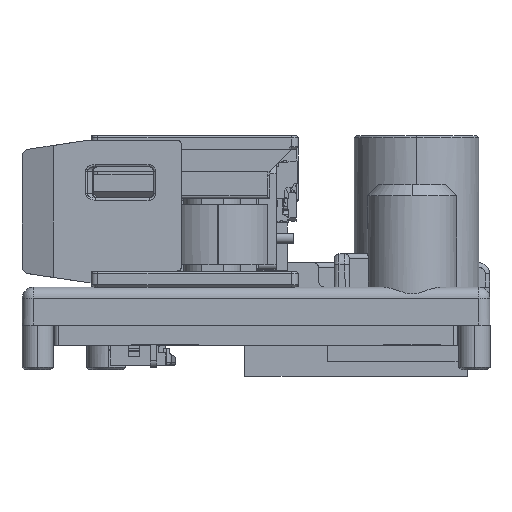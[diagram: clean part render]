
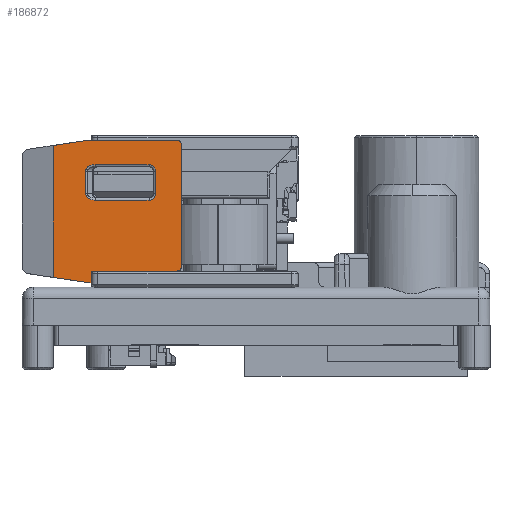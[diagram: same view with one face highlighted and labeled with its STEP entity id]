
A CAD part, left-side view. The second image highlights one B-rep face of the part: STEP entity #186872.
In plain terms, the highlighted planar face has unit normal (-1, 0, 0).
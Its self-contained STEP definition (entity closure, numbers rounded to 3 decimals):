
#179589=CARTESIAN_POINT('',(-12.3,7.741,1.8));
#179590=CARTESIAN_POINT('',(-12.3,7.741,
1.814));
#179591=CARTESIAN_POINT('',(-12.3,7.739,
1.842));
#179592=CARTESIAN_POINT('',(-12.3,7.725,
1.887));
#179593=CARTESIAN_POINT('',(-12.3,7.7,
1.933));
#179594=CARTESIAN_POINT('',(-12.3,7.664,
1.975));
#179595=CARTESIAN_POINT('',(-12.3,7.618,
2.013));
#179596=CARTESIAN_POINT('',(-12.3,7.561,
2.048));
#179597=CARTESIAN_POINT('',(-12.3,7.492,
2.076));
#179598=CARTESIAN_POINT('',(-12.3,7.411,
2.095));
#179599=CARTESIAN_POINT('',(-12.3,7.35,
2.1));
#179600=CARTESIAN_POINT('',(-12.3,7.317,2.1));
#179602=DIRECTION('',(0.,0.,1.));
#179603=VECTOR('',#179602,0.995);
#179604=CARTESIAN_POINT('',(-12.3,7.741,0.805));
#179605=LINE('',#179604,#179603);
#179606=CARTESIAN_POINT('',(-12.3,7.317,0.505));
#179607=CARTESIAN_POINT('',(-12.3,7.336,
0.505));
#179608=CARTESIAN_POINT('',(-12.3,7.373,
0.507));
#179609=CARTESIAN_POINT('',(-12.3,7.432,
0.515));
#179610=CARTESIAN_POINT('',(-12.3,7.49,
0.53));
#179611=CARTESIAN_POINT('',(-12.3,7.538,
0.548));
#179612=CARTESIAN_POINT('',(-12.3,7.58,
0.568));
#179613=CARTESIAN_POINT('',(-12.3,7.615,
0.591));
#179614=CARTESIAN_POINT('',(-12.3,7.645,
0.614));
#179615=CARTESIAN_POINT('',(-12.3,7.67,
0.637));
#179616=CARTESIAN_POINT('',(-12.3,7.691,
0.662));
#179617=CARTESIAN_POINT('',(-12.3,7.71,
0.69));
#179618=CARTESIAN_POINT('',(-12.3,7.725,
0.721));
#179619=CARTESIAN_POINT('',(-12.3,7.737,
0.757));
#179620=CARTESIAN_POINT('',(-12.3,7.741,
0.788));
#179621=CARTESIAN_POINT('',(-12.3,7.741,0.805));
#179623=DIRECTION('',(0.,1.,0.));
#179624=VECTOR('',#179623,2.417);
#179625=CARTESIAN_POINT('',(-12.3,4.9,0.505));
#179626=LINE('',#179625,#179624);
#179627=CARTESIAN_POINT('',(-12.3,4.9,0.805));
#179628=DIRECTION('',(1.,0.,0.));
#179629=DIRECTION('',(0.,-1.,0.));
#179630=AXIS2_PLACEMENT_3D('',#179627,#179628,#179629);
#179632=DIRECTION('',(0.,0.,-1.));
#179633=VECTOR('',#179632,0.995);
#179634=CARTESIAN_POINT('',(-12.3,4.6,1.8));
#179635=LINE('',#179634,#179633);
#179636=CARTESIAN_POINT('',(-12.3,4.9,1.8));
#179637=DIRECTION('',(1.,0.,0.));
#179638=DIRECTION('',(0.,0.,1.));
#179639=AXIS2_PLACEMENT_3D('',#179636,#179637,#179638);
#179641=DIRECTION('',(0.,-1.,0.));
#179642=VECTOR('',#179641,2.417);
#179643=CARTESIAN_POINT('',(-12.3,7.317,2.1));
#179644=LINE('',#179643,#179642);
#179645=CARTESIAN_POINT('',(-12.3,3.65,3.));
#179646=DIRECTION('',(-1.,0.,0.));
#179647=DIRECTION('',(0.,-1.,0.));
#179648=AXIS2_PLACEMENT_3D('',#179645,#179646,#179647);
#179650=DIRECTION('',(0.,0.,-1.));
#179651=VECTOR('',#179650,5.475);
#179652=CARTESIAN_POINT('',(-12.3,3.45,3.));
#179653=LINE('',#179652,#179651);
#179654=CARTESIAN_POINT('',(-12.3,3.65,-2.475));
#179655=DIRECTION('',(-1.,0.,0.));
#179656=DIRECTION('',(0.,0.,-1.));
#179657=AXIS2_PLACEMENT_3D('',#179654,#179655,#179656);
#179659=DIRECTION('',(0.,1.,0.));
#179660=VECTOR('',#179659,3.85);
#179661=CARTESIAN_POINT('',(-12.3,3.65,-2.675));
#179662=LINE('',#179661,#179660);
#179663=DIRECTION('',(0.,0.,1.));
#179664=VECTOR('',#179663,0.525);
#179665=CARTESIAN_POINT('',(-12.3,7.5,-3.2));
#179666=LINE('',#179665,#179664);
#179667=DIRECTION('',(0.,1.,0.));
#179668=VECTOR('',#179667,0.1);
#179669=CARTESIAN_POINT('',(-12.3,7.5,-3.2));
#179670=LINE('',#179669,#179668);
#179671=DIRECTION('',(0.,-0.989,-0.148));
#179672=VECTOR('',#179671,1.618);
#179673=CARTESIAN_POINT('',(-12.3,9.2,-2.96));
#179674=LINE('',#179673,#179672);
#179675=DIRECTION('',(0.,0.,-1.));
#179676=VECTOR('',#179675,5.92);
#179677=CARTESIAN_POINT('',(-12.3,9.2,2.96));
#179678=LINE('',#179677,#179676);
#179679=DIRECTION('',(0.,0.989,-0.148));
#179680=VECTOR('',#179679,1.618);
#179681=CARTESIAN_POINT('',(-12.3,7.6,3.2));
#179682=LINE('',#179681,#179680);
#180139=DIRECTION('',(0.,1.,0.));
#180140=VECTOR('',#180139,3.95);
#180141=CARTESIAN_POINT('',(-12.3,3.65,3.2));
#180142=LINE('',#180141,#180140);
#185555=VERTEX_POINT('',#179589);
#185556=VERTEX_POINT('',#179600);
#185559=CARTESIAN_POINT('',(-12.3,4.9,2.1));
#185560=VERTEX_POINT('',#185559);
#185563=CARTESIAN_POINT('',(-12.3,4.6,1.8));
#185564=VERTEX_POINT('',#185563);
#185567=CARTESIAN_POINT('',(-12.3,4.6,0.805));
#185568=VERTEX_POINT('',#185567);
#185571=CARTESIAN_POINT('',(-12.3,7.741,0.805));
#185572=VERTEX_POINT('',#185571);
#185709=CARTESIAN_POINT('',(-12.3,7.5,-3.2));
#185710=CARTESIAN_POINT('',(-12.3,7.6,-3.2));
#185711=VERTEX_POINT('',#185709);
#185712=VERTEX_POINT('',#185710);
#185717=CARTESIAN_POINT('',(-12.3,9.2,2.96));
#185718=CARTESIAN_POINT('',(-12.3,9.2,-2.96));
#185719=VERTEX_POINT('',#185717);
#185720=VERTEX_POINT('',#185718);
#185725=CARTESIAN_POINT('',(-12.3,7.6,3.2));
#185726=VERTEX_POINT('',#185725);
#185780=CARTESIAN_POINT('',(-12.3,3.45,3.));
#185781=VERTEX_POINT('',#185780);
#185782=CARTESIAN_POINT('',(-12.3,3.65,3.2));
#185783=VERTEX_POINT('',#185782);
#185784=CARTESIAN_POINT('',(-12.3,3.65,-2.675));
#185785=CARTESIAN_POINT('',(-12.3,3.45,-2.475));
#185786=VERTEX_POINT('',#185784);
#185787=VERTEX_POINT('',#185785);
#185791=CARTESIAN_POINT('',(-12.3,7.5,-2.675));
#185792=VERTEX_POINT('',#185791);
#186550=CARTESIAN_POINT('',(-12.3,4.9,0.505));
#186551=VERTEX_POINT('',#186550);
#186554=CARTESIAN_POINT('',(-12.3,7.317,0.505));
#186555=VERTEX_POINT('',#186554);
#186827=CARTESIAN_POINT('',(-12.3,0.,-3.2));
#186828=DIRECTION('',(-1.,0.,0.));
#186829=DIRECTION('',(0.,0.,1.));
#186830=AXIS2_PLACEMENT_3D('',#186827,#186828,#186829);
#186831=PLANE('',#186830);
#186833=ORIENTED_EDGE('',*,*,#186832,.F.);
#186835=ORIENTED_EDGE('',*,*,#186834,.T.);
#186837=ORIENTED_EDGE('',*,*,#186836,.F.);
#186839=ORIENTED_EDGE('',*,*,#186838,.T.);
#186841=ORIENTED_EDGE('',*,*,#186840,.F.);
#186843=ORIENTED_EDGE('',*,*,#186842,.T.);
#186845=ORIENTED_EDGE('',*,*,#186844,.F.);
#186847=ORIENTED_EDGE('',*,*,#186846,.F.);
#186849=ORIENTED_EDGE('',*,*,#186848,.F.);
#186851=ORIENTED_EDGE('',*,*,#186850,.F.);
#186852=EDGE_LOOP('',(#186833,#186835,#186837,#186839,#186841,#186843,#186845,
#186847,#186849,#186851));
#186853=FACE_OUTER_BOUND('',#186852,.F.);
#186855=ORIENTED_EDGE('',*,*,#186854,.F.);
#186857=ORIENTED_EDGE('',*,*,#186856,.F.);
#186859=ORIENTED_EDGE('',*,*,#186858,.F.);
#186861=ORIENTED_EDGE('',*,*,#186860,.F.);
#186863=ORIENTED_EDGE('',*,*,#186862,.F.);
#186865=ORIENTED_EDGE('',*,*,#186864,.F.);
#186867=ORIENTED_EDGE('',*,*,#186866,.F.);
#186869=ORIENTED_EDGE('',*,*,#186868,.F.);
#186870=EDGE_LOOP('',(#186855,#186857,#186859,#186861,#186863,#186865,#186867,
#186869));
#186871=FACE_BOUND('',#186870,.F.);
#186872=ADVANCED_FACE('',(#186853,#186871),#186831,.T.);
#179601=B_SPLINE_CURVE_WITH_KNOTS('',3,(#179589,#179590,#179591,#179592,#179593,
#179594,#179595,#179596,#179597,#179598,#179599,#179600),.UNSPECIFIED.,.F.,.F.,(
4,1,1,1,1,1,1,1,1,4),(0.,0.111,0.222,
0.333,0.444,0.556,0.667,
0.778,0.889,1.),.UNSPECIFIED.);
#179622=B_SPLINE_CURVE_WITH_KNOTS('',3,(#179606,#179607,#179608,#179609,#179610,
#179611,#179612,#179613,#179614,#179615,#179616,#179617,#179618,#179619,#179620,
#179621),.UNSPECIFIED.,.F.,.F.,(4,1,1,1,1,1,1,1,1,1,1,1,1,4),(0.,
0.077,0.154,0.231,0.308,
0.385,0.462,0.538,0.615,
0.692,0.769,0.846,0.923,1.),
.UNSPECIFIED.);
#179631=CIRCLE('',#179630,0.3);
#179640=CIRCLE('',#179639,0.3);
#179649=CIRCLE('',#179648,0.2);
#179658=CIRCLE('',#179657,0.2);
#186832=EDGE_CURVE('',#185781,#185783,#179649,.T.);
#186834=EDGE_CURVE('',#185781,#185787,#179653,.T.);
#186836=EDGE_CURVE('',#185786,#185787,#179658,.T.);
#186838=EDGE_CURVE('',#185786,#185792,#179662,.T.);
#186840=EDGE_CURVE('',#185711,#185792,#179666,.T.);
#186842=EDGE_CURVE('',#185711,#185712,#179670,.T.);
#186844=EDGE_CURVE('',#185720,#185712,#179674,.T.);
#186846=EDGE_CURVE('',#185719,#185720,#179678,.T.);
#186848=EDGE_CURVE('',#185726,#185719,#179682,.T.);
#186850=EDGE_CURVE('',#185783,#185726,#180142,.T.);
#186854=EDGE_CURVE('',#185555,#185556,#179601,.T.);
#186856=EDGE_CURVE('',#185572,#185555,#179605,.T.);
#186858=EDGE_CURVE('',#186555,#185572,#179622,.T.);
#186860=EDGE_CURVE('',#186551,#186555,#179626,.T.);
#186862=EDGE_CURVE('',#185568,#186551,#179631,.T.);
#186864=EDGE_CURVE('',#185564,#185568,#179635,.T.);
#186866=EDGE_CURVE('',#185560,#185564,#179640,.T.);
#186868=EDGE_CURVE('',#185556,#185560,#179644,.T.);
